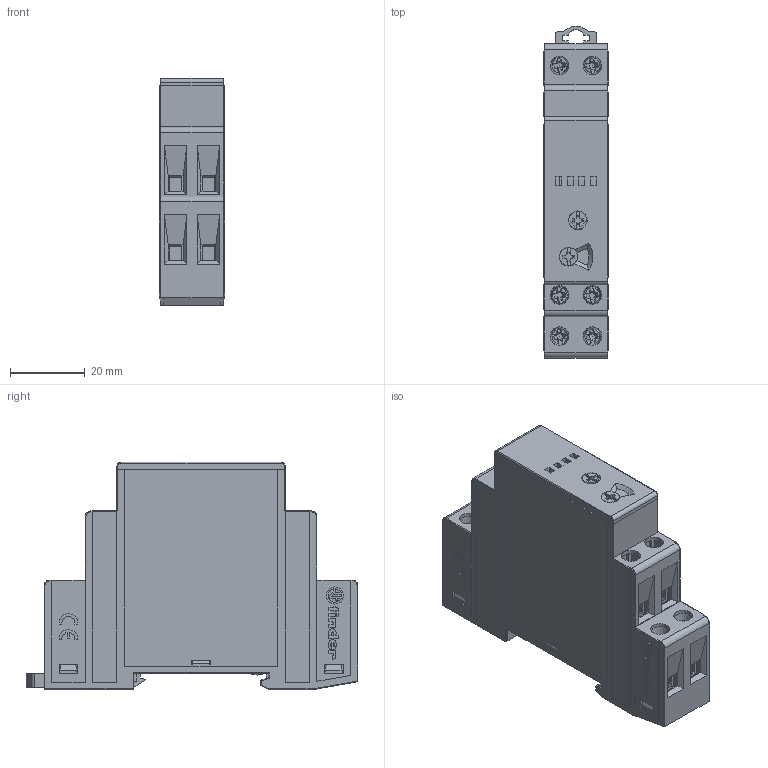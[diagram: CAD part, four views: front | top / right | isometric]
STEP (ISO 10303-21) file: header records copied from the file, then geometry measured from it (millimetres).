
FILE_DESCRIPTION( ( 'Unknown' ), '1' );
FILE_NAME( 'C:/Users/pdellaca/Desktop/1361/x Versetti - problemi/1361.stp', 'Unknown', ( 'Unknown' ), ( 'Unknown' ), 'PSStep 15.0.49', 'Unknown', ' ' );
FILE_SCHEMA( ( 'AUTOMOTIVE_DESIGN { 1 0 10303 214 1 1 1 1 }' ) );
Length unit declared in the file: millimetre
Products named in the file (41): top; 180720B; 111721; 180212; 190150; 127101; 127537; 180782; 1
Bounding box: 17.5 x 88.85 x 60.8 mm (x, y, z)
Surface area: 20474.3 mm2 (no closed solid volume)
Topology: 0 solids, 1234 shells, 1234 faces, 7459 edges, 7410 vertices
Faces by surface type: plane 1000, cylinder 156, bspline 28, extrusion 22, revolution 12, torus 12, cone 4
Full cylindrical faces by diameter (mm): 3 x2, 4.566 x2, 4.6 x6, 5 x7
Entity records: 85663 total; most frequent: CARTESIAN_POINT 22347, DIRECTION 10010, VERTEX_POINT 7393, ORIENTED_EDGE 7387, EDGE_CURVE 7387, VECTOR 6350, LINE 6328, AXIS2_PLACEMENT_3D 1824
